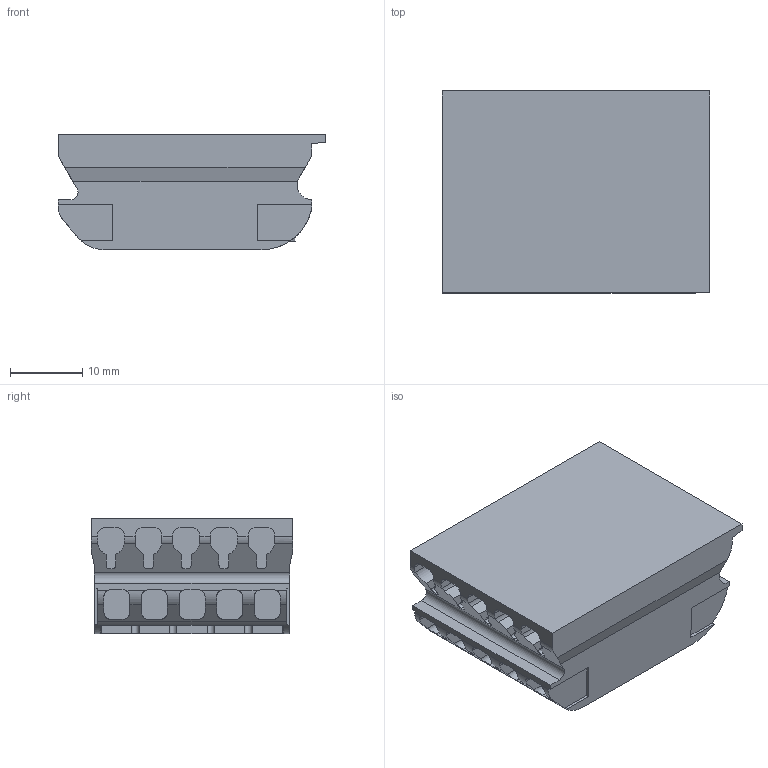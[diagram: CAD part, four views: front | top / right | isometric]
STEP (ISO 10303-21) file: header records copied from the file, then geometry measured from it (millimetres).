
FILE_DESCRIPTION(/* description */ ('Unknown'),/* implementation_level */ '2;1');
FILE_NAME(/* name */ '024-30R-04',/* time_stamp */ '2024-10-29T11:12:53+01:00',/* author */ ('Unknown'),/* organization */ ('Unknown'),/* preprocessor_version */ 'ST-DEVELOPER v16.7',/* originating_system */ 'Solid Edge',/* authorisation */ 'Unknown');
FILE_SCHEMA (('AUTOMOTIVE_DESIGN {1 0 10303 214 3 1 1}'));
Length unit declared in the file: millimetre
Products named in the file (3): 024-30R-04; 024-30J-02; 024-30R-01
Assembly tree (2 placements, depth 2):
  024-30R-04
    024-30J-02
    024-30R-01
Bounding box: 36.95 x 27.9 x 16.01 mm (x, y, z)
Volume: 11723 mm3; surface area: 6532.7 mm2
Topology: 17 solids, 17 shells, 586 faces, 1613 edges, 1072 vertices
Faces by surface type: plane 417, cylinder 165, bspline 4
Full cylindrical faces by diameter (mm): 2.134 x5, 4.63 x1, 5.21 x1
Entity records: 18853 total; most frequent: CARTESIAN_POINT 3624, ORIENTED_EDGE 3212, DIRECTION 3028, EDGE_CURVE 1606, LINE 1192, VECTOR 1192, VERTEX_POINT 1072, AXIS2_PLACEMENT_3D 918
